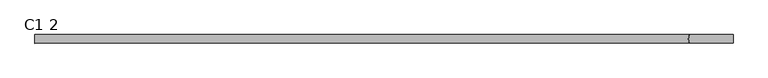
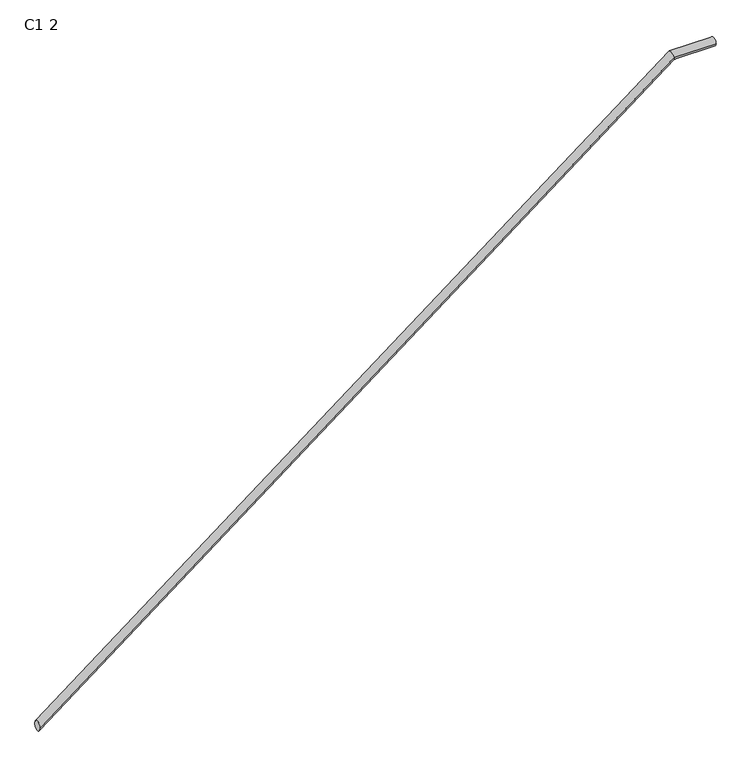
"""IFC4 building model written with IfcOpenShell, lengths in millimetres: railing geometry, C1 2."""

from ifc_helpers import new_model, si_unit, frame, origin, place, context, project, spatial, circle_curve, ellipse_curve, source, transform, mapped, element, save
from ifc_brep_helpers import plane_surface, cylinder_surface, advanced_brep


def c1_2_bab826fe(model_context):
    return source(origin(), model_context, "Body", "AdvancedBrep", [
        advanced_brep(
        [(-5697.4033731, 7093.2374199, 4456.1590336), (-5697.4033731, 7143.2374199, 4456.1590336), (-1878.9235836, 7093.2374199, 7383.3245116), (-1878.9235836, 7143.2374199, 7383.3245116), (-1627.4033731, 7093.2374199, 7383.3245116), (-1627.4033731, 7143.2374199, 7383.3245116)],
        [
            (0, 1, ellipse_curve(frame((-5697.4033731, 7118.2374199, 4456.1590336), z_axis=(-1.0, 0.0, 0.0), x_axis=(0.0, 0.0, -1.0)), 31.5004264, 25.0)),
            (1, 0, ellipse_curve(frame((-5697.4033731, 7118.2374199, 4456.1590336), z_axis=(-1.0, 0.0, 0.0), x_axis=(0.0, 0.0, -1.0)), 31.5004264, 25.0)),
            (0, 2),
            (2, 3, ellipse_curve(frame((-1878.9235836, 7118.2374199, 7383.3245116), z_axis=(-0.947005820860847, 0.0, -0.32121639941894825), x_axis=(0.32121639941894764, 0.0, -0.9470058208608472)), 26.398993, 25.0)),
            (3, 1),
            (3, 2, ellipse_curve(frame((-1878.9235836, 7118.2374199, 7383.3245116), z_axis=(-0.947005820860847, 0.0, -0.32121639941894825), x_axis=(0.32121639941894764, 0.0, -0.9470058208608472)), 26.398993, 25.0)),
            (4, 5, circle_curve(frame((-1627.4033731, 7118.2374199, 7383.3245116), z_axis=(1.0, 0.0, 0.0), x_axis=(0.0, 1.0, 0.0)), 25.0)),
            (5, 4, circle_curve(frame((-1627.4033731, 7118.2374199, 7383.3245116), z_axis=(1.0, 0.0, 0.0), x_axis=(0.0, 1.0, 0.0)), 25.0)),
            (2, 4),
            (5, 3),
        ],
        [
            plane_surface(frame((-5697.4033731, 7118.2374199, 4487.65946), z_axis=(-1.0, 0.0, 0.0), x_axis=(0.0, 1.0, 0.0))),
            cylinder_surface(frame((-5682.1936831, 7118.2374199, 4467.8184588), z_axis=(-0.7936400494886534, 0.0, -0.6083876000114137), x_axis=(0.0, 1.0, 0.0)), 25.0),
            plane_surface(frame((-1627.4033731, 7118.2374199, 7408.3245116), z_axis=(1.0, 0.0, 0.0), x_axis=(0.0, 1.0, 0.0))),
            cylinder_surface(frame((-1887.4033731, 7118.2374199, 7383.3245116), z_axis=(-1.0, 0.0, 0.0), x_axis=(0.0, 1.0, 0.0)), 25.0),
        ],
        [
            (0, [[1, 2]]),
            (1, [[-1, 3, 4, 5]]),
            (1, [[-2, -5, 6, -3]]),
            (2, [[7, 8]]),
            (3, [[-4, 9, -8, 10]]),
            (3, [[-6, -10, -7, -9]]),
        ],
    ),
    ])


if __name__ == "__main__":
    model = new_model("IFC4")
    model_context = context("Model", 3, world=origin())
    ifc_project = project(units=[si_unit("LENGTHUNIT", "METRE", prefix="MILLI")], contexts=[model_context])
    site = spatial("IfcSite", under=ifc_project)
    building = spatial("IfcBuilding", under=site)
    placement = place(None, origin())
    c1_2_shape = c1_2_bab826fe(model_context)
    element("IfcRailing", 1, ObjectType="C1 2", at=placement, inside=building, context=model_context, shape_type="MappedRepresentation", body=[
        mapped(c1_2_shape, transform((0.0, 0.0, 0.0), x_axis=(1.0, 0.0, 0.0), y_axis=(0.0, 1.0, 0.0), z_axis=(0.0, 0.0, 1.0))),
    ])
    save(model, "model.ifc")
